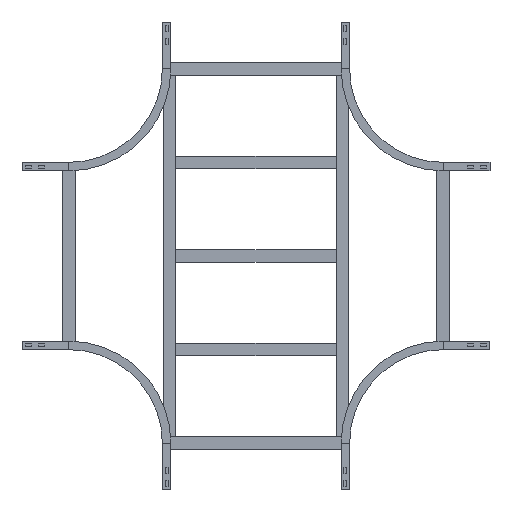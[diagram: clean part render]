
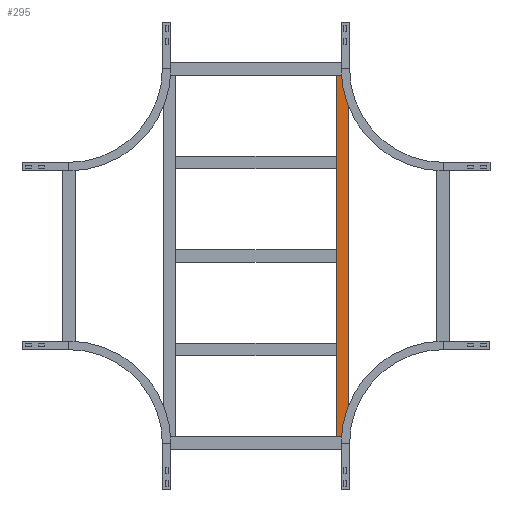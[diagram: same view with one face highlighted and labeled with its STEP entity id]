
A CAD part, front view. The second image highlights one B-rep face of the part: STEP entity #295.
In plain terms, the highlighted planar face has unit normal (0, -1, 0).
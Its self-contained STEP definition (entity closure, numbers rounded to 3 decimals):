
#142 = CARTESIAN_POINT ( 'NONE',  ( -579.75, 0., 20.25 ) ) ;
#195 = CARTESIAN_POINT ( 'NONE',  ( -579.75, 0., 20.25 ) ) ;
#255 = ORIENTED_EDGE ( 'NONE', *, *, #1410, .F. ) ;
#295 = ADVANCED_FACE ( 'NONE', ( #1060 ), #1425, .F. ) ;
#369 = ORIENTED_EDGE ( 'NONE', *, *, #2213, .T. ) ;
#457 = CARTESIAN_POINT ( 'NONE',  ( 579.75, 0., 20.25 ) ) ;
#481 = EDGE_LOOP ( 'NONE', ( #369, #1948, #255, #845 ) ) ;
#486 = AXIS2_PLACEMENT_3D ( 'NONE', #457, #1241, #1049 ) ;
#500 = DIRECTION ( 'NONE',  ( 0., 0., -1. ) ) ;
#683 = DIRECTION ( 'NONE',  ( -1., 0., 0. ) ) ;
#784 = CARTESIAN_POINT ( 'NONE',  ( 579.75, 0., 20.25 ) ) ;
#845 = ORIENTED_EDGE ( 'NONE', *, *, #1676, .T. ) ;
#880 = LINE ( 'NONE', #1459, #1195 ) ;
#906 = VERTEX_POINT ( 'NONE', #195 ) ;
#1049 = DIRECTION ( 'NONE',  ( 0., 0., 1. ) ) ;
#1060 = FACE_OUTER_BOUND ( 'NONE', #481, .T. ) ;
#1195 = VECTOR ( 'NONE', #2222, 1000. ) ;
#1241 = DIRECTION ( 'NONE',  ( 0., 1., 0. ) ) ;
#1351 = VERTEX_POINT ( 'NONE', #1529 ) ;
#1365 = LINE ( 'NONE', #784, #2421 ) ;
#1376 = CARTESIAN_POINT ( 'NONE',  ( 579.75, 0., -20.25 ) ) ;
#1410 = EDGE_CURVE ( 'NONE', #1766, #2133, #1365, .T. ) ;
#1425 = PLANE ( 'NONE',  #486 ) ;
#1459 = CARTESIAN_POINT ( 'NONE',  ( 579.75, 0., 20.25 ) ) ;
#1529 = CARTESIAN_POINT ( 'NONE',  ( -579.75, 0., -20.25 ) ) ;
#1568 = CARTESIAN_POINT ( 'NONE',  ( 579.75, 0., -20.25 ) ) ;
#1676 = EDGE_CURVE ( 'NONE', #1766, #906, #880, .T. ) ;
#1766 = VERTEX_POINT ( 'NONE', #1910 ) ;
#1910 = CARTESIAN_POINT ( 'NONE',  ( 579.75, 0., 20.25 ) ) ;
#1948 = ORIENTED_EDGE ( 'NONE', *, *, #2026, .F. ) ;
#2005 = VECTOR ( 'NONE', #500, 1000. ) ;
#2026 = EDGE_CURVE ( 'NONE', #2133, #1351, #2142, .T. ) ;
#2071 = LINE ( 'NONE', #142, #2005 ) ;
#2133 = VERTEX_POINT ( 'NONE', #1376 ) ;
#2142 = LINE ( 'NONE', #1568, #2462 ) ;
#2213 = EDGE_CURVE ( 'NONE', #906, #1351, #2071, .T. ) ;
#2222 = DIRECTION ( 'NONE',  ( -1., 0., 0. ) ) ;
#2264 = DIRECTION ( 'NONE',  ( 0., 0., -1. ) ) ;
#2421 = VECTOR ( 'NONE', #2264, 1000. ) ;
#2462 = VECTOR ( 'NONE', #683, 1000. ) ;
